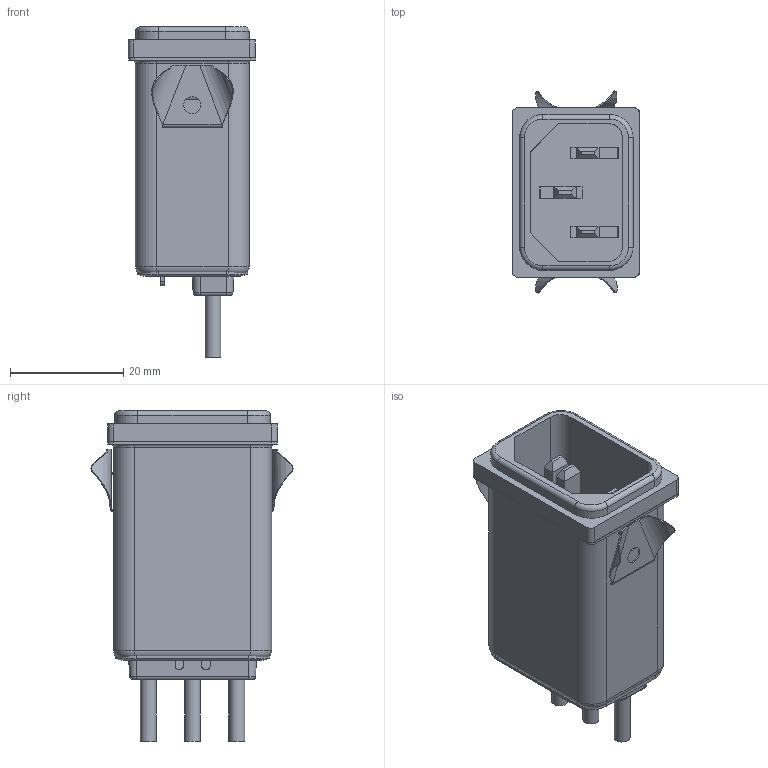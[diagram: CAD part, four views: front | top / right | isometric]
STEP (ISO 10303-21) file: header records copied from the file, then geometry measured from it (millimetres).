
FILE_DESCRIPTION((''),'2;1');
FILE_NAME('D:\_ PRODUCT\FN_PART_FOR_FN9222-XX-07\FN_UPDATE\DB_07 version_Update\3D_inventor\FN9222S_07.stp','2012-01-12T14:23:22',('sayan.penton'),(''),'Autodesk Inventor 2010','Autodesk Inventor 2010','');
FILE_SCHEMA(('AUTOMOTIVE_DESIGN { 1 0 10303 214 1 1 1 1 }'));
Length unit declared in the file: millimetre
Products named in the file (1): Part6
Bounding box: 22.52 x 35.65 x 58.28 mm (x, y, z)
Surface area: 21552.7 mm2 (no closed solid volume)
Topology: 0 solids, 13 shells, 699 faces, 1853 edges, 1196 vertices
Faces by surface type: plane 457, cylinder 146, bspline 68, torus 20, cone 8
Full cylindrical faces by diameter (mm): 0.4 x2, 2 x4, 2.8 x3, 3 x2
Entity records: 23104 total; most frequent: CARTESIAN_POINT 4958, ORIENTED_EDGE 3656, DIRECTION 3462, EDGE_CURVE 1828, VECTOR 1370, LINE 1370, VERTEX_POINT 1196, AXIS2_PLACEMENT_3D 1046
